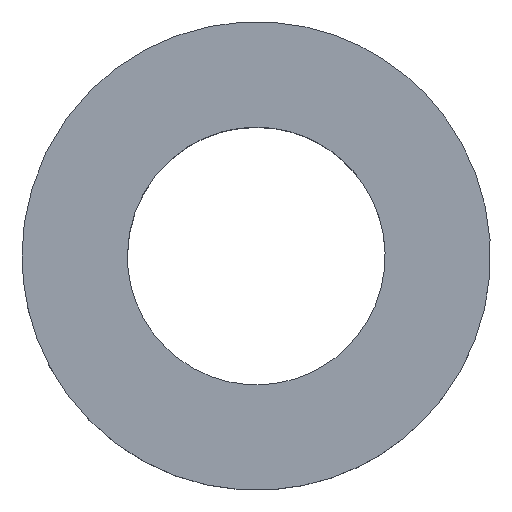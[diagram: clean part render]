
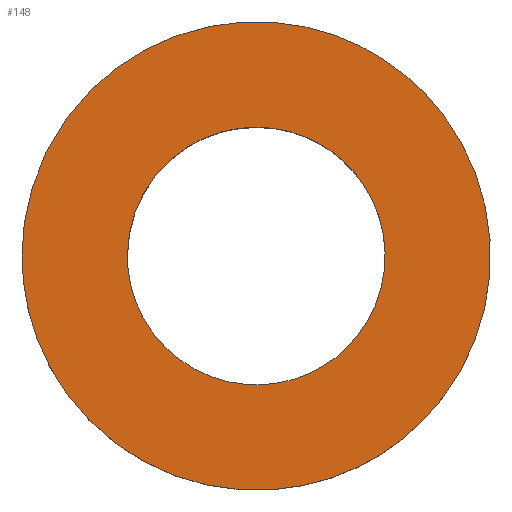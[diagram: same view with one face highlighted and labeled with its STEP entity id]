
A CAD part, top view. The second image highlights one B-rep face of the part: STEP entity #148.
In plain terms, the highlighted free-form (B-spline) face has degree [1, 1] with [2, 2] control points.
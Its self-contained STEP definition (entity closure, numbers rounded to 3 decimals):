
#115 = EDGE_CURVE('',#116,#116,#118,.T.);
#116 = VERTEX_POINT('',#117);
#117 = CARTESIAN_POINT('',(-3.,0.,1.));
#118 = ( BOUNDED_CURVE() B_SPLINE_CURVE(2,(#119,#120,#121,#122,#123,#124
,#125),.UNSPECIFIED.,.T.,.F.) B_SPLINE_CURVE_WITH_KNOTS((1,2,2,2,2,1),(
    -2.094,0.,2.094,4.189,6.283,
8.378),.UNSPECIFIED.) CURVE() GEOMETRIC_REPRESENTATION_ITEM() 
RATIONAL_B_SPLINE_CURVE((1.,0.5,1.,0.5,1.,0.5,1.)) REPRESENTATION_ITEM(
  '') );
#119 = CARTESIAN_POINT('',(-3.,0.,1.));
#120 = CARTESIAN_POINT('',(-3.,5.196,1.));
#121 = CARTESIAN_POINT('',(1.5,2.598,1.));
#122 = CARTESIAN_POINT('',(6.,0.,1.));
#123 = CARTESIAN_POINT('',(1.5,-2.598,1.));
#124 = CARTESIAN_POINT('',(-3.,-5.196,1.));
#125 = CARTESIAN_POINT('',(-3.,0.,1.));
#148 = ADVANCED_FACE('',(#149,#163),#166,.T.);
#149 = FACE_BOUND('',#150,.T.);
#150 = EDGE_LOOP('',(#151));
#151 = ORIENTED_EDGE('',*,*,#152,.T.);
#152 = EDGE_CURVE('',#153,#153,#155,.T.);
#153 = VERTEX_POINT('',#154);
#154 = CARTESIAN_POINT('',(-1.65,0.,1.));
#155 = ( BOUNDED_CURVE() B_SPLINE_CURVE(2,(#156,#157,#158,#159,#160,#161
,#162),.UNSPECIFIED.,.T.,.F.) B_SPLINE_CURVE_WITH_KNOTS((1,2,2,2,2,1),(
    -2.094,0.,2.094,4.189,6.283,
8.378),.UNSPECIFIED.) CURVE() GEOMETRIC_REPRESENTATION_ITEM() 
RATIONAL_B_SPLINE_CURVE((1.,0.5,1.,0.5,1.,0.5,1.)) REPRESENTATION_ITEM(
  '') );
#156 = CARTESIAN_POINT('',(-1.65,0.,1.));
#157 = CARTESIAN_POINT('',(-1.65,2.858,1.));
#158 = CARTESIAN_POINT('',(0.825,1.429,1.));
#159 = CARTESIAN_POINT('',(3.3,0.,1.));
#160 = CARTESIAN_POINT('',(0.825,-1.429,1.));
#161 = CARTESIAN_POINT('',(-1.65,-2.858,1.));
#162 = CARTESIAN_POINT('',(-1.65,0.,1.));
#163 = FACE_BOUND('',#164,.T.);
#164 = EDGE_LOOP('',(#165));
#165 = ORIENTED_EDGE('',*,*,#115,.F.);
#166 = B_SPLINE_SURFACE_WITH_KNOTS('',1,1,(
    (#167,#168)
    ,(#169,#170
  )),.UNSPECIFIED.,.F.,.F.,.F.,(2,2),(2,2),(0.,6.),(-3.,3.),
  .PIECEWISE_BEZIER_KNOTS.);
#167 = CARTESIAN_POINT('',(-3.,-3.,1.));
#168 = CARTESIAN_POINT('',(-3.,3.,1.));
#169 = CARTESIAN_POINT('',(3.,-3.,1.));
#170 = CARTESIAN_POINT('',(3.,3.,1.));
